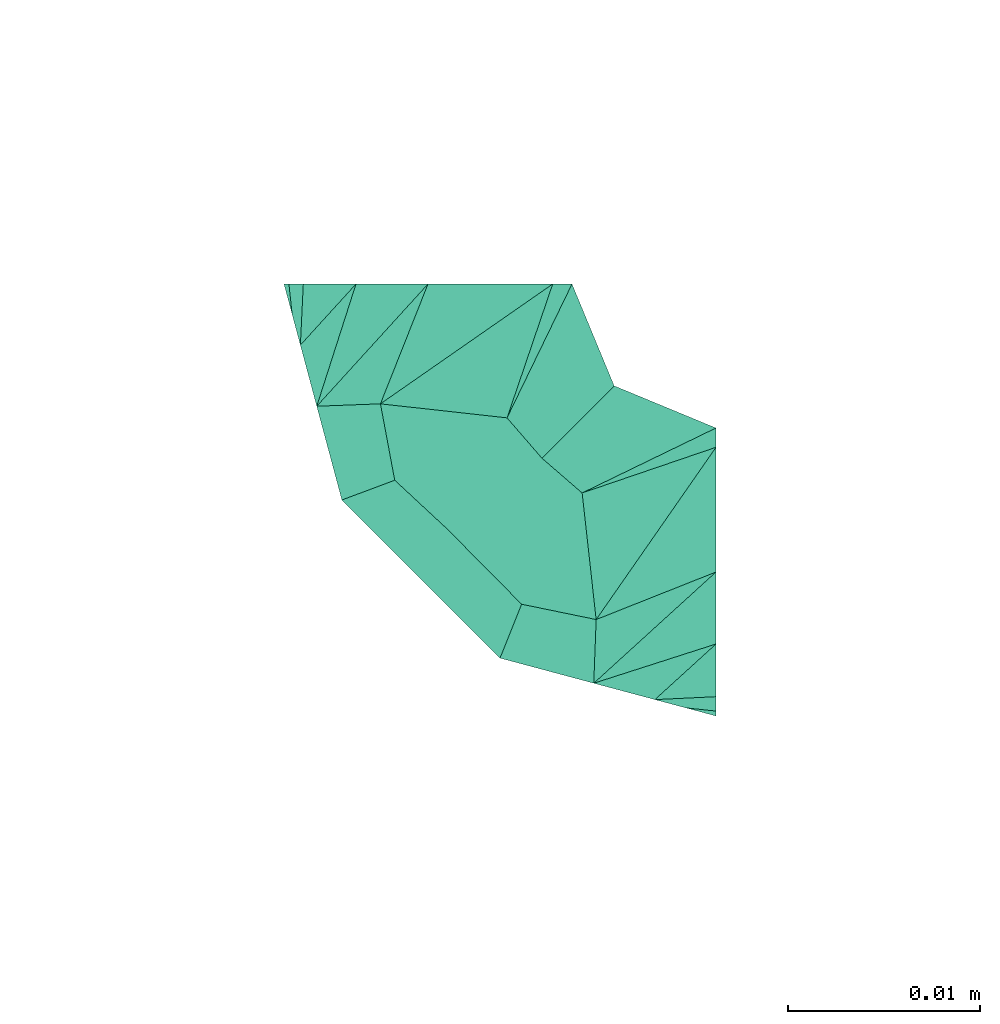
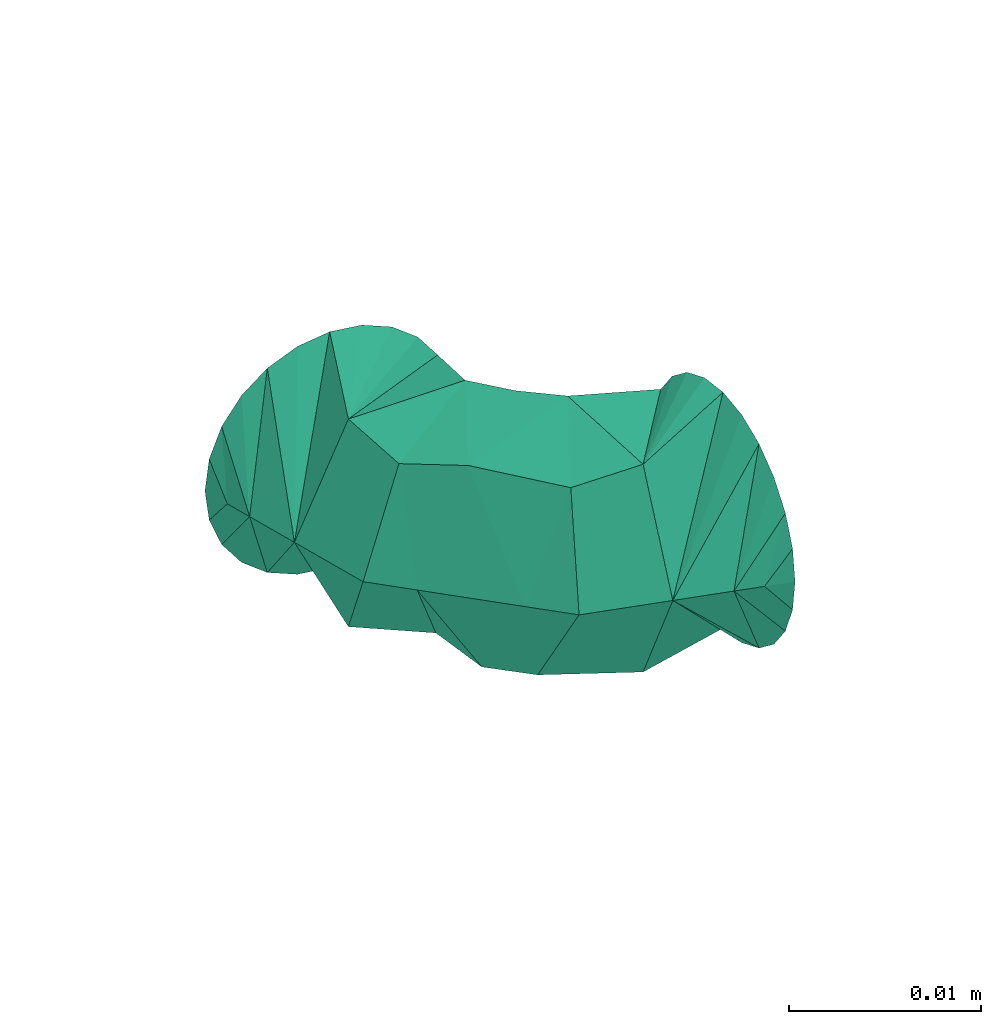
# One storey, part 90 of 95: 1 flow fitting.
"""IFC2X3 building model written with IfcOpenShell, lengths in millimetres."""

from ifc_helpers import new_model, entity, si_unit, converted_unit, derived_unit, direction, frame, origin_with_axes, place, context, subcontext, project, spatial, open_shell, surface_model, source, transform, mapped, type_object, element, save


model = new_model("IFC2X3")

# Units and contexts
model_context = context("Model", 3, precision=0.01, world=frame((0.0, 4.29681676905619e-09, 0.0)), true_north=direction((4.01073788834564e-13, 1.0)))
plan_context = context("Plan", 3, precision=0.01, world=frame((0.0, 4.29681676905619e-09, 0.0)), true_north=direction((4.01073788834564e-13, 1.0)))
body_context = subcontext(model_context, "Body", "Model", "MODEL_VIEW")
ifc_project = project(units=[converted_unit("PLANEANGLEUNIT", "DEGREE", entity("IfcPositiveLengthMeasure", 0.0174532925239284), si_unit("PLANEANGLEUNIT", "RADIAN"), dimensions=[0, 0, 0, 0, 0, 0, 0]), si_unit("AREAUNIT", "SQUARE_METRE"), si_unit("LENGTHUNIT", "METRE", prefix="MILLI"), si_unit("MASSUNIT", "GRAM", prefix="KILO"), si_unit("POWERUNIT", "WATT"), si_unit("PRESSUREUNIT", "PASCAL"), si_unit("FORCEUNIT", "NEWTON", prefix="KILO"), si_unit("ELECTRICVOLTAGEUNIT", "VOLT"), si_unit("ELECTRICCURRENTUNIT", "AMPERE"), si_unit("THERMODYNAMICTEMPERATUREUNIT", "DEGREE_CELSIUS"), si_unit("TIMEUNIT", "SECOND"), si_unit("VOLUMEUNIT", "CUBIC_METRE"), derived_unit("LINEARVELOCITYUNIT", [(si_unit("LENGTHUNIT", "METRE"), 1), (si_unit("TIMEUNIT", "SECOND"), -1)]), derived_unit("VOLUMETRICFLOWRATEUNIT", [(si_unit("VOLUMEUNIT", "CUBIC_METRE"), 1), (si_unit("TIMEUNIT", "SECOND"), -1)]), derived_unit("THERMALTRANSMITTANCEUNIT", [(si_unit("POWERUNIT", "WATT"), 1), (si_unit("THERMODYNAMICTEMPERATUREUNIT", "KELVIN"), -1), (si_unit("AREAUNIT", "SQUARE_METRE"), -1)]), derived_unit("SOUNDPRESSUREUNIT", [(si_unit("PRESSUREUNIT", "PASCAL"), 1)])], contexts=[model_context, plan_context])

# Site, building, storey
site_placement = place(None, frame((0.0, -4.29681676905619e-09, 0.0), z_axis=(0.0, 0.0, 1.0), x_axis=(1.0, 0.0, 0.0)))
site = spatial("IfcSite", under=ifc_project, at=site_placement, CompositionType="ELEMENT")
building_placement = place(site_placement, frame((0.0, 4.29681676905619e-09, 0.0), z_axis=(0.0, 0.0, 1.0), x_axis=(1.0, 0.0, 0.0)))
building = spatial("IfcBuilding", under=site, at=building_placement, Name="mc-building", CompositionType="ELEMENT")
storey_placement = place(building_placement, frame((0.0, 0.0, 210900.0), z_axis=(0.0, 0.0, 1.0), x_axis=(1.0, 0.0, 0.0)))
storey = spatial("IfcBuildingStorey", under=building, at=storey_placement, Name="Nivå F", CompositionType="ELEMENT", Elevation=210900.0)

# Flow fitting
pipe_fitting_type = type_object("IfcPipeFittingType", Name="magi_pipe_cu_elbow_short_001", PredefinedType="BEND")
shared_shape = source(origin_with_axes(), body_context, "Body", "SurfaceModel", [
    surface_model("IfcShellBasedSurfaceModel", [(-15.0, 0.0, -7.5), (-15.0, -6.49519, -3.75), (-15.0, 1.94114, -7.24444), (-15.0, 3.75, -6.49519), (-15.0, 5.3033, -5.3033), (-15.0, 7.24444, -1.94114), (-15.0, 6.49519, -3.75), (-15.0, -5.3033, -5.3033), (-15.0, -3.75, -6.49519), (-15.0, -1.94114, -7.24444), (-15.0, -7.24444, -1.94114), (-15.0, -7.5, 0.0), (-15.0, -6.49519, 3.75), (-15.0, 7.24444, 1.94114), (-15.0, 6.49519, 3.75), (-15.0, 3.75, 6.49519), (-15.0, 1.94114, 7.24444), (-15.0, 5.3033, 5.3033), (-15.0, -5.3033, 5.3033), (-15.0, -7.24444, 1.94114), (-15.0, -1.94114, 7.24444), (-15.0, 0.0, 7.5), (-15.0, -3.75, 6.49519), (-15.0, 7.5, 0.0), (-1.94114, 15.0, -7.24444), (6.49519, 15.0, -3.75), (0.0, 15.0, -7.5), (-5.3033, 15.0, -5.3033), (-3.75, 15.0, -6.49519), (-6.49519, 15.0, -3.75), (-7.24444, 15.0, -1.94114), (3.75, 15.0, -6.49519), (5.3033, 15.0, -5.3033), (1.94114, 15.0, -7.24444), (7.5, 15.0, 0.0), (7.24444, 15.0, -1.94114), (-7.5, 15.0, 0.0), (-7.24444, 15.0, 1.94114), (-6.49519, 15.0, 3.75), (-3.75, 15.0, 6.49519), (-1.94114, 15.0, 7.24444), (-5.3033, 15.0, 5.3033), (5.3033, 15.0, 5.3033), (6.49519, 15.0, 3.75), (7.24444, 15.0, 1.94114), (3.75, 15.0, 6.49519), (0.0, 15.0, 7.5), (1.94114, 15.0, 7.24444), (-13.40845, -7.07355, 0.0), (-8.7589, -2.47707, 6.60232), (-8.6338, -5.79418, 0.0), (-3.75, -4.48557, 0.0), (0.36779, -0.36779, 0.0), (2.42668, 1.69111, 0.0), (-2.25176, 0.98822, 6.3797), (-1.69111, -2.42668, 0.0), (-11.8169, -6.64709, 0.0), (-5.9304, 5.9304, 7.17811), (-4.11647, 8.02676, 7.20749), (2.47708, 8.7589, 6.60232), (1.67739, 4.87408, 5.99192), (4.48557, 3.75, 0.0), (-4.78013, -1.73268, 5.91836), (7.07355, 13.40845, 0.0), (6.64709, 11.8169, 0.0), (-8.02675, 4.11647, 7.20749), (-8.59835, 12.34835, 0.0), (-12.34835, 8.59835, 0.0), (-9.6967, 9.6967, 0.0), (5.79418, 8.6338, 0.0), (-8.7589, -2.47707, -6.60232), (-4.11647, 8.02676, -7.20749), (0.71542, 3.43733, -5.99192), (-2.23993, 1.78364, -6.69976), (2.47708, 8.7589, -6.60232), (-11.39207, 6.08032, -5.22727), (-7.08629, 1.82323, -7.49084), (-8.19523, 6.76007, -6.13545)], [open_shell([[[0, 1, 2]], [[3, 2, 4]], [[5, 6, 4]], [[4, 2, 1]], [[5, 4, 1]], [[7, 1, 8]], [[9, 8, 1]], [[10, 11, 1]], [[0, 9, 1]], [[11, 12, 1]], [[12, 5, 1]], [[13, 5, 12]], [[14, 13, 15]], [[13, 16, 15]], [[17, 14, 15]], [[16, 13, 12]], [[12, 18, 16]], [[12, 11, 19]], [[20, 21, 22]], [[18, 22, 21]], [[16, 18, 21]], [[13, 23, 5]], [[24, 25, 26]], [[27, 24, 28]], [[27, 29, 30]], [[25, 24, 27]], [[25, 27, 30]], [[31, 25, 32]], [[25, 31, 33]], [[25, 34, 35]], [[25, 33, 26]], [[30, 34, 25]], [[30, 36, 34]], [[36, 37, 38]], [[36, 38, 39]], [[40, 34, 39]], [[39, 38, 41]], [[40, 42, 34]], [[42, 43, 34]], [[44, 34, 43]], [[45, 46, 47]], [[45, 42, 40]], [[45, 40, 46]], [[39, 34, 36]], [[19, 48, 12]], [[49, 50, 51]], [[52, 53, 54]], [[54, 55, 52]], [[22, 18, 56]], [[12, 56, 18]], [[57, 54, 58]], [[22, 50, 20]], [[21, 20, 50]], [[59, 60, 61]], [[59, 58, 60]], [[55, 54, 62]], [[21, 50, 49]], [[21, 49, 16]], [[62, 49, 51]], [[62, 51, 55]], [[43, 63, 44]], [[49, 15, 16]], [[64, 63, 43]], [[13, 65, 23]], [[14, 17, 49]], [[54, 65, 62]], [[15, 49, 17]], [[57, 58, 66]], [[67, 57, 68]], [[53, 60, 54]], [[47, 46, 69]], [[69, 45, 47]], [[41, 59, 39]], [[40, 59, 46]], [[42, 45, 64]], [[54, 60, 58]], [[64, 45, 69]], [[61, 60, 53]], [[44, 63, 34]], [[59, 61, 69]], [[58, 36, 66]], [[22, 56, 50]], [[54, 57, 65]], [[49, 65, 14]], [[37, 36, 58]], [[64, 43, 42]], [[38, 37, 58]], [[14, 65, 13]], [[41, 38, 59]], [[19, 11, 48]], [[38, 58, 59]], [[48, 56, 12]], [[39, 59, 40]], [[59, 69, 46]], [[49, 62, 65]], [[57, 67, 65]], [[66, 68, 57]], [[67, 23, 65]], [[70, 50, 0]], [[71, 72, 73]], [[74, 71, 29]], [[70, 2, 3]], [[70, 51, 50]], [[35, 34, 63]], [[75, 4, 6]], [[75, 5, 23]], [[6, 5, 75]], [[51, 76, 55]], [[75, 23, 67]], [[70, 4, 75]], [[48, 11, 10]], [[8, 56, 7]], [[0, 50, 9]], [[51, 70, 76]], [[56, 8, 50]], [[8, 9, 50]], [[70, 0, 2]], [[66, 36, 71]], [[52, 72, 53]], [[4, 70, 3]], [[70, 75, 76]], [[73, 52, 55]], [[71, 68, 66]], [[61, 53, 72]], [[31, 64, 69]], [[30, 71, 36]], [[27, 74, 29]], [[56, 1, 7]], [[28, 24, 74]], [[63, 64, 25]], [[56, 48, 1]], [[28, 74, 27]], [[1, 48, 10]], [[26, 74, 24]], [[33, 69, 26]], [[29, 71, 30]], [[32, 64, 31]], [[69, 33, 31]], [[68, 71, 77]], [[74, 26, 69]], [[25, 35, 63]], [[61, 72, 74]], [[61, 74, 69]], [[67, 77, 75]], [[74, 72, 71]], [[25, 64, 32]], [[76, 77, 73]], [[75, 77, 76]], [[77, 71, 73]], [[55, 76, 73]], [[72, 52, 73]], [[77, 67, 68]]])]),
])
flow_fitting_placement = place(storey_placement, frame((535733.125, 448949.47163, 4380.0), z_axis=(0.0, 0.0, 1.0), x_axis=(0.0, -1.0, 0.0)))
element("IfcFlowFitting", 1, at=flow_fitting_placement, inside=storey, type_object=pipe_fitting_type, Name="magi_pipe_cu_elbow_short_001", context=body_context, shape_type="MappedRepresentation", body=[
    mapped(shared_shape, transform((0.0, 0.0, 0.0), scale=1.0)),
])

save(model, "model.ifc")
